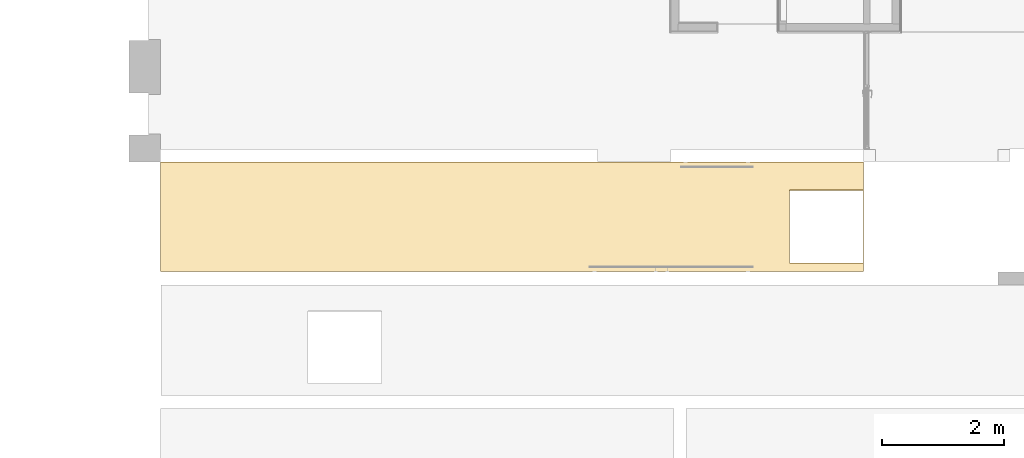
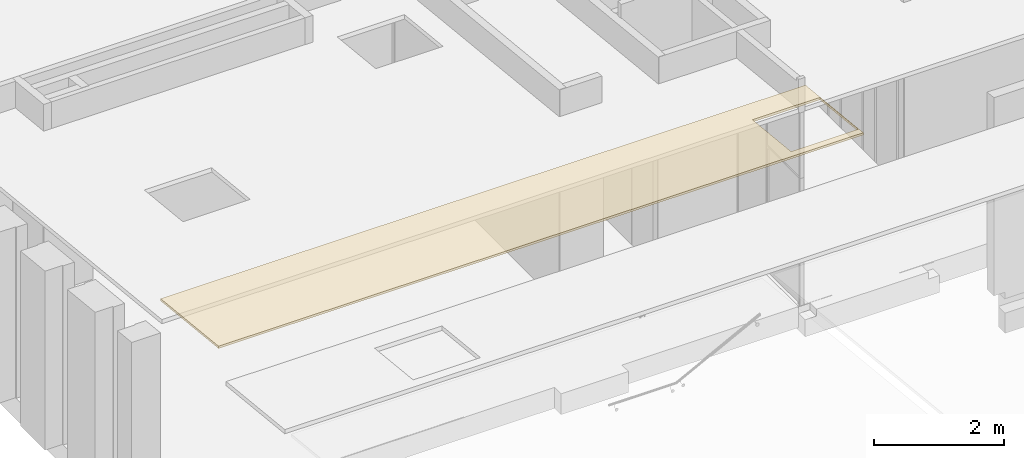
# One storey, part 33 of 43: 1 covering, 22 openings.
"""IFC2X3 building model written with IfcOpenShell, lengths in millimetres."""

from ifc_helpers import new_model, entity, si_unit, converted_unit, derived_unit, money_unit, direction, frame, origin_with_axes, place, context, subcontext, project, spatial, faceted_brep, material, type_object, element, save


model = new_model("IFC2X3")

# Units and contexts
model_context = context("Model", 3, precision=0.01, world=origin_with_axes(), true_north=direction((0.0, 1.0)))
body_context = subcontext(model_context, "Body", "Model", "MODEL_VIEW")
ifc_project = project(units=[si_unit("LENGTHUNIT", "METRE", prefix="MILLI"), si_unit("AREAUNIT", "SQUARE_METRE"), si_unit("VOLUMEUNIT", "CUBIC_METRE"), converted_unit("PLANEANGLEUNIT", "DEGREE", entity("IfcPlaneAngleMeasure", 0.0174532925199), si_unit("PLANEANGLEUNIT", "RADIAN"), dimensions=[0, 0, 0, 0, 0, 0, 0]), si_unit("SOLIDANGLEUNIT", "STERADIAN"), money_unit("EUR"), converted_unit("TIMEUNIT", "Year", entity("IfcTimeMeasure", 31556926.0), si_unit("TIMEUNIT", "SECOND"), dimensions=[0, 0, 1, 0, 0, 0, 0]), si_unit("MASSUNIT", "GRAM", prefix="KILO"), si_unit("THERMODYNAMICTEMPERATUREUNIT", "DEGREE_CELSIUS"), si_unit("LUMINOUSINTENSITYUNIT", "LUMEN"), si_unit("ENERGYUNIT", "JOULE", prefix="MEGA"), derived_unit("THERMALCONDUCTANCEUNIT", [(si_unit("POWERUNIT", "WATT"), 1), (si_unit("LENGTHUNIT", "METRE"), -1), (si_unit("THERMODYNAMICTEMPERATUREUNIT", "KELVIN"), -1)]), derived_unit("SPECIFICHEATCAPACITYUNIT", [(si_unit("ENERGYUNIT", "JOULE"), 1), (si_unit("MASSUNIT", "GRAM", prefix="KILO"), -1), (si_unit("THERMODYNAMICTEMPERATUREUNIT", "KELVIN"), -1)]), derived_unit("MASSDENSITYUNIT", [(si_unit("MASSUNIT", "GRAM", prefix="KILO"), 1), (si_unit("VOLUMEUNIT", "CUBIC_METRE"), -1)])], contexts=[model_context])

# Site, building, storey
site_placement = place(None, origin_with_axes())
site = spatial("IfcSite", under=ifc_project, at=site_placement, Name="L.Koidula tn 11b", CompositionType="ELEMENT")
building_placement = place(site_placement, origin_with_axes())
building = spatial("IfcBuilding", under=site, at=building_placement, Name="Rakvere Riigigümnaasium", CompositionType="ELEMENT")
storey_placement = place(building_placement, frame((0.0, 0.0, 6665.0), z_axis=(0.0, 0.0, 1.0), x_axis=(1.0, 0.0, 0.0)))
storey = spatial("IfcBuildingStorey", under=building, at=storey_placement, Name="3.korrus +6,66", CompositionType="ELEMENT", Elevation=6665.0)

# Covering, openings
ifc_material = material(Name="Krohv akustiline")
covering_type = type_object("IfcCoveringType", Name="Krohv akustiline 42", PredefinedType="CEILING")
covering_placement = place(storey_placement, frame((41692.3728014, 5500.45553477, 5479.297597), z_axis=(0.0, 0.0, 1.0), x_axis=(-0.999999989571, 0.000144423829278, 0.0)))
covering = element("IfcCovering", 1, at=covering_placement, inside=storey, type_object=covering_type, material=ifc_material, Name="L-06", PredefinedType="CEILING", context=body_context, shape_type="Brep", body=[
    faceted_brep([(-5305.95106871, -11600.7663996, -1219.28968129), (-5306.2095843, -9810.78635363, -1031.15519742), (6193.79006367, -9809.12855938, -1030.98095622), (6194.04858298, -11599.1055256, -1219.11511641), (-4096.01797354, -9944.86070176, -1045.24697925), (-5296.01797354, -9944.86070176, -1045.24697925), (-5296.01797354, -11138.2869762, -1170.68113517), (-4096.01797354, -11138.2869762, -1170.68113517), (-5306.21021859, -9810.7863534, -988.923849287), (-5305.95170281, -11600.7663999, -1177.05833322), (6193.78942954, -9809.12855985, -988.749608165), (6194.04794853, -11599.1055259, -1176.88376833), (-4096.01797354, -9949.25089725, -1003.47705928), (-5296.01797354, -9949.25089725, -1003.47705928), (-5296.01797354, -11142.6771717, -1128.9112152), (-4096.01797354, -11142.6771717, -1128.9112152)], [[[0, 1, 2, 3], [4, 5, 6, 7]], [[8, 1, 0, 9]], [[10, 2, 1, 8]], [[11, 3, 2, 10]], [[9, 0, 3, 11]], [[12, 13, 5, 4]], [[13, 14, 6, 5]], [[14, 15, 7, 6]], [[15, 12, 4, 7]], [[11, 10, 8, 9], [12, 15, 14, 13]]]),
])
opening_1_placement = place(covering_placement, frame((-11516.3043858, -9160.02918398, 4595.47213455), z_axis=(0.0, 0.0, 1.0), x_axis=(1.0, 0.0, 0.0)))
element("IfcOpeningElement", 2, at=opening_1_placement, cuts=covering, Name="Ava ripplaes", context=body_context, shape_type="Brep", body=[
    faceted_brep([(600.0, 1201.73628727, -5432.92793176), (-600.0, 1201.73628727, -5432.92793176), (-600.0, 1193.32174598, -5352.86891918), (600.0, 1193.32174598, -5352.86891918), (600.0, 8.31001282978, -5558.36208768), (-600.0, 8.31001282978, -5558.36208768), (-600.0, -0.104528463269, -5478.3030751), (600.0, -0.10452846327, -5478.3030751)], [[[0, 1, 2, 3]], [[0, 4, 5, 1]], [[1, 5, 6, 2]], [[3, 2, 6, 7]], [[4, 0, 3, 7]], [[5, 4, 7, 6]]]),
])
opening_2_placement = place(covering_placement, frame((-23206.3022728, -9161.71749825, 4595.29468557), z_axis=(0.0, 0.0, 1.0), x_axis=(1.0, 0.0, 0.0)))
element("IfcOpeningElement", 3, at=opening_2_placement, cuts=covering, Name="Ava ripplaes", context=body_context, shape_type="Brep", body=[
    faceted_brep([(600.0, 1201.73628727, -5432.92793176), (-600.0, 1201.73628727, -5432.92793176), (-600.0, 1193.32174598, -5352.86891918), (600.0, 1193.32174598, -5352.86891918), (600.0, 8.31001282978, -5558.36208768), (-600.0, 8.31001282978, -5558.36208768), (-600.0, -0.104528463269, -5478.3030751), (600.0, -0.10452846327, -5478.3030751)], [[[0, 1, 2, 3]], [[0, 4, 5, 1]], [[1, 5, 6, 2]], [[3, 2, 6, 7]], [[4, 0, 3, 7]], [[5, 4, 7, 6]]]),
])
opening_3_placement = place(covering_placement, frame((-18086.1915168, -11280.4143095, 4372.61067747), z_axis=(0.0, 0.0, 1.0), x_axis=(1.0, 0.0, 0.0)))
element("IfcOpeningElement", 4, at=opening_3_placement, cuts=covering, Name="Ava ripplaes", context=body_context, shape_type="Brep", body=[
    faceted_brep([(600.0, 1201.73628727, -5432.92793176), (-600.0, 1201.73628727, -5432.92793176), (-600.0, 1193.32174598, -5352.86891918), (600.0, 1193.32174598, -5352.86891918), (600.0, 8.31001282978, -5558.36208768), (-600.0, 8.31001282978, -5558.36208768), (-600.0, -0.104528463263, -5478.3030751), (600.0, -0.104528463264, -5478.3030751)], [[[0, 1, 2, 3]], [[0, 4, 5, 1]], [[1, 5, 6, 2]], [[3, 2, 6, 7]], [[4, 0, 3, 7]], [[5, 4, 7, 6]]]),
])
opening_4_placement = place(covering_placement, frame((-29406.2925626, -11282.1358561, 4372.42973562), z_axis=(0.0, 0.0, 1.0), x_axis=(1.0, 0.0, 0.0)))
element("IfcOpeningElement", 5, at=opening_4_placement, cuts=covering, Name="Ava ripplaes", context=body_context, shape_type="Brep", body=[
    faceted_brep([(600.0, 1201.73628727, -5432.92793176), (-600.0, 1201.73628727, -5432.92793176), (-600.0, 1193.32174598, -5352.86891918), (600.0, 1193.32174598, -5352.86891918), (600.0, 8.31001282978, -5558.36208768), (-600.0, 8.31001282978, -5558.36208768), (-600.0, -0.104528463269, -5478.3030751), (600.0, -0.10452846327, -5478.3030751)], [[[0, 1, 2, 3]], [[0, 4, 5, 1]], [[1, 5, 6, 2]], [[3, 2, 6, 7]], [[4, 0, 3, 7]], [[5, 4, 7, 6]]]),
])
opening_5_placement = place(covering_placement, frame((-29405.7369011, -16322.9984736, 3842.61372513), z_axis=(0.0, 0.0, 1.0), x_axis=(1.0, 0.0, 0.0)))
element("IfcOpeningElement", 6, at=opening_5_placement, cuts=covering, Name="Ava ripplaes", context=body_context, shape_type="Brep", body=[
    faceted_brep([(600.0, 1201.73628727, -5432.92793176), (-600.0, 1201.73628727, -5432.92793176), (-600.0, 1193.32174598, -5352.86891918), (600.0, 1193.32174598, -5352.86891918), (600.0, 8.31001282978, -5558.36208768), (-600.0, 8.31001282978, -5558.36208768), (-600.0, -0.104528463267, -5478.3030751), (600.0, -0.104528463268, -5478.3030751)], [[[0, 1, 2, 3]], [[0, 4, 5, 1]], [[1, 5, 6, 2]], [[3, 2, 6, 7]], [[4, 0, 3, 7]], [[5, 4, 7, 6]]]),
])
opening_6_placement = place(covering_placement, frame((-9716.2340785, -23904.850891, 3045.72892491), z_axis=(0.0, 0.0, 1.0), x_axis=(1.0, 0.0, 0.0)))
element("IfcOpeningElement", 7, at=opening_6_placement, cuts=covering, Name="Ava ripplaes", context=body_context, shape_type="Brep", body=[
    faceted_brep([(600.0, 1201.73628727, -5432.92793176), (-600.0, 1201.73628727, -5432.92793176), (-600.0, 1193.32174598, -5352.86891918), (600.0, 1193.32174598, -5352.86891918), (600.0, 8.31001282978, -5558.36208768), (-600.0, 8.31001282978, -5558.36208768), (-600.0, -0.104528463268, -5478.3030751), (600.0, -0.104528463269, -5478.3030751)], [[[0, 1, 2, 3]], [[0, 4, 5, 1]], [[1, 5, 6, 2]], [[3, 2, 6, 7]], [[4, 0, 3, 7]], [[5, 4, 7, 6]]]),
])
opening_7_placement = place(covering_placement, frame((-9715.54464158, -29871.9832396, 2418.55804267), z_axis=(0.0, 0.0, 1.0), x_axis=(1.0, 0.0, 0.0)))
element("IfcOpeningElement", 8, at=opening_7_placement, cuts=covering, Name="Ava ripplaes", context=body_context, shape_type="Brep", body=[
    faceted_brep([(600.0, 1201.73628727, -5432.92793176), (-600.0, 1201.73628727, -5432.92793176), (-600.0, 1193.32174598, -5352.86891918), (600.0, 1193.32174598, -5352.86891918), (600.0, 8.31001282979, -5558.36208768), (-600.0, 8.31001282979, -5558.36208768), (-600.0, -0.104528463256, -5478.3030751), (600.0, -0.104528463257, -5478.3030751)], [[[0, 1, 2, 3]], [[0, 4, 5, 1]], [[1, 5, 6, 2]], [[3, 2, 6, 7]], [[4, 0, 3, 7]], [[5, 4, 7, 6]]]),
])
opening_8_placement = place(covering_placement, frame((3416.81663542, -31969.3532486, 2198.11557181), z_axis=(0.0, 0.0, 1.0), x_axis=(1.0, 0.0, 0.0)))
element("IfcOpeningElement", 9, at=opening_8_placement, cuts=covering, Name="Ava ripplaes", context=body_context, shape_type="Brep", body=[
    faceted_brep([(600.0, 1201.73628727, -5432.92793176), (-600.0, 1201.73628727, -5432.92793176), (-600.0, 1193.32174598, -5352.86891918), (600.0, 1193.32174598, -5352.86891918), (600.0, 8.31001282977, -5558.36208768), (-600.0, 8.31001282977, -5558.36208768), (-600.0, -0.104528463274, -5478.3030751), (600.0, -0.104528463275, -5478.3030751)], [[[0, 1, 2, 3]], [[0, 4, 5, 1]], [[1, 5, 6, 2]], [[3, 2, 6, 7]], [[4, 0, 3, 7]], [[5, 4, 7, 6]]]),
])
opening_9_placement = place(covering_placement, frame((305.258902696, -28389.6185082, 2574.36085415), z_axis=(0.0, 0.0, 1.0), x_axis=(1.0, 0.0, 0.0)))
element("IfcOpeningElement", 10, at=opening_9_placement, cuts=covering, Name="Ava ripplaes", context=body_context, shape_type="Brep", body=[
    faceted_brep([(600.0, 1201.73628727, -5432.92793176), (-600.0, 1201.73628727, -5432.92793176), (-600.0, 1193.32174598, -5352.86891918), (600.0, 1193.32174598, -5352.86891918), (600.0, 8.31001282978, -5558.36208768), (-600.0, 8.31001282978, -5558.36208768), (-600.0, -0.104528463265, -5478.3030751), (600.0, -0.104528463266, -5478.3030751)], [[[0, 1, 2, 3]], [[0, 4, 5, 1]], [[1, 5, 6, 2]], [[3, 2, 6, 7]], [[4, 0, 3, 7]], [[5, 4, 7, 6]]]),
])
opening_10_placement = place(covering_placement, frame((3415.95483931, -24808.7946504, 2950.72060735), z_axis=(0.0, 0.0, 1.0), x_axis=(1.0, 0.0, 0.0)))
element("IfcOpeningElement", 11, at=opening_10_placement, cuts=covering, Name="Ava ripplaes", context=body_context, shape_type="Brep", body=[
    faceted_brep([(600.0, 1201.73628727, -5432.92793176), (-600.0, 1201.73628727, -5432.92793176), (-600.0, 1193.32174598, -5352.86891918), (600.0, 1193.32174598, -5352.86891918), (600.0, 8.31001282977, -5558.36208768), (-600.0, 8.31001282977, -5558.36208768), (-600.0, -0.104528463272, -5478.3030751), (600.0, -0.104528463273, -5478.3030751)], [[[0, 1, 2, 3]], [[0, 4, 5, 1]], [[1, 5, 6, 2]], [[3, 2, 6, 7]], [[4, 0, 3, 7]], [[5, 4, 7, 6]]]),
])
opening_11_placement = place(covering_placement, frame((3414.40360632, -14067.9564676, 4079.62819067), z_axis=(0.0, 0.0, 1.0), x_axis=(1.0, 0.0, 0.0)))
element("IfcOpeningElement", 12, at=opening_11_placement, cuts=covering, Name="Ava ripplaes", context=body_context, shape_type="Brep", body=[
    faceted_brep([(600.0, 1201.73628727, -5432.92793176), (-600.0, 1201.73628727, -5432.92793176), (-600.0, 1193.32174598, -5352.86891918), (600.0, 1193.32174598, -5352.86891918), (600.0, 8.31001282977, -5558.36208768), (-600.0, 8.31001282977, -5558.36208768), (-600.0, -0.104528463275, -5478.3030751), (600.0, -0.104528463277, -5478.3030751)], [[[0, 1, 2, 3]], [[0, 4, 5, 1]], [[1, 5, 6, 2]], [[3, 2, 6, 7]], [[4, 0, 3, 7]], [[5, 4, 7, 6]]]),
])
opening_12_placement = place(covering_placement, frame((-1060.42443632, -15261.8557052, 3954.14432431), z_axis=(0.0, 0.0, 1.0), x_axis=(1.0, 0.0, 0.0)))
element("IfcOpeningElement", 13, at=opening_12_placement, cuts=covering, Name="Ava ripplaes", context=body_context, shape_type="Brep", body=[
    faceted_brep([(600.0, 1201.73628727, -5432.92793176), (-600.0, 1201.73628727, -5432.92793176), (-600.0, 1193.32174598, -5352.86891918), (600.0, 1193.32174598, -5352.86891918), (600.0, 8.31001282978, -5558.36208768), (-600.0, 8.31001282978, -5558.36208768), (-600.0, -0.104528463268, -5478.3030751), (600.0, -0.104528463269, -5478.3030751)], [[[0, 1, 2, 3]], [[0, 4, 5, 1]], [[1, 5, 6, 2]], [[3, 2, 6, 7]], [[4, 0, 3, 7]], [[5, 4, 7, 6]]]),
])
opening_13_placement = place(covering_placement, frame((3414.92068395, -17648.2356466, 3703.32568552), z_axis=(0.0, 0.0, 1.0), x_axis=(1.0, 0.0, 0.0)))
element("IfcOpeningElement", 14, at=opening_13_placement, cuts=covering, Name="Ava ripplaes", context=body_context, shape_type="Brep", body=[
    faceted_brep([(600.0, 1201.73628727, -5432.92793176), (-600.0, 1201.73628727, -5432.92793176), (-600.0, 1193.32174598, -5352.86891918), (600.0, 1193.32174598, -5352.86891918), (600.0, 8.31001282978, -5558.36208768), (-600.0, 8.31001282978, -5558.36208768), (-600.0, -0.104528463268, -5478.3030751), (600.0, -0.104528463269, -5478.3030751)], [[[0, 1, 2, 3]], [[0, 4, 5, 1]], [[1, 5, 6, 2]], [[3, 2, 6, 7]], [[4, 0, 3, 7]], [[5, 4, 7, 6]]]),
])
opening_14_placement = place(covering_placement, frame((306.293058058, -36743.6037864, 1696.32162007), z_axis=(0.0, 0.0, 1.0), x_axis=(1.0, 0.0, 0.0)))
element("IfcOpeningElement", 15, at=opening_14_placement, cuts=covering, Name="Ava ripplaes", context=body_context, shape_type="Brep", body=[
    faceted_brep([(600.0, 1201.73628727, -5432.92793176), (-600.0, 1201.73628727, -5432.92793176), (-600.0, 1193.32174598, -5352.86891918), (600.0, 1193.32174598, -5352.86891918), (600.0, 8.31001282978, -5558.36208768), (-600.0, 8.31001282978, -5558.36208768), (-600.0, -0.104528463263, -5478.3030751), (600.0, -0.104528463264, -5478.3030751)], [[[0, 1, 2, 3]], [[0, 4, 5, 1]], [[1, 5, 6, 2]], [[3, 2, 6, 7]], [[4, 0, 3, 7]], [[5, 4, 7, 6]]]),
])
opening_15_placement = place(covering_placement, frame((-26304.9309839, -18710.1062928, 3591.7185833), z_axis=(0.0, 0.0, 1.0), x_axis=(1.0, 0.0, 0.0)))
element("IfcOpeningElement", 16, at=opening_15_placement, cuts=covering, Name="Ava ripplaes", context=body_context, shape_type="Brep", body=[
    faceted_brep([(600.0, 1201.73628727, -5432.92793176), (-600.0, 1201.73628727, -5432.92793176), (-600.0, 1193.32174598, -5352.86891918), (600.0, 1193.32174598, -5352.86891918), (600.0, 8.31001282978, -5558.36208768), (-600.0, 8.31001282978, -5558.36208768), (-600.0, -0.104528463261, -5478.3030751), (600.0, -0.104528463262, -5478.3030751)], [[[0, 1, 2, 3]], [[0, 4, 5, 1]], [[1, 5, 6, 2]], [[3, 2, 6, 7]], [[4, 0, 3, 7]], [[5, 4, 7, 6]]]),
])
opening_16_placement = place(covering_placement, frame((-32956.2401126, -13936.6582716, 4093.42818715), z_axis=(0.0, 0.0, 1.0), x_axis=(1.0, 0.0, 0.0)))
element("IfcOpeningElement", 17, at=opening_16_placement, cuts=covering, Name="Ava ripplaes", context=body_context, shape_type="Brep", body=[
    faceted_brep([(600.0, 1201.73628727, -5432.92793176), (-600.0, 1201.73628727, -5432.92793176), (-600.0, 1193.32174598, -5352.86891918), (600.0, 1193.32174598, -5352.86891918), (600.0, 8.31001282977, -5558.36208768), (-600.0, 8.31001282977, -5558.36208768), (-600.0, -0.104528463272, -5478.3030751), (600.0, -0.104528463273, -5478.3030751)], [[[0, 1, 2, 3]], [[0, 4, 5, 1]], [[1, 5, 6, 2]], [[3, 2, 6, 7]], [[4, 0, 3, 7]], [[5, 4, 7, 6]]]),
])
opening_17_placement = place(covering_placement, frame((-26305.6204208, -13936.4004338, 4093.455287), z_axis=(0.0, 0.0, 1.0), x_axis=(1.0, 0.0, 0.0)))
element("IfcOpeningElement", 18, at=opening_17_placement, cuts=covering, Name="Ava ripplaes", context=body_context, shape_type="Brep", body=[
    faceted_brep([(600.0, 1201.73628727, -5432.92793176), (-600.0, 1201.73628727, -5432.92793176), (-600.0, 1193.32174598, -5352.86891918), (600.0, 1193.32174598, -5352.86891918), (600.0, 8.31001282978, -5558.36208768), (-600.0, 8.31001282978, -5558.36208768), (-600.0, -0.104528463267, -5478.3030751), (600.0, -0.104528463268, -5478.3030751)], [[[0, 1, 2, 3]], [[0, 4, 5, 1]], [[1, 5, 6, 2]], [[3, 2, 6, 7]], [[4, 0, 3, 7]], [[5, 4, 7, 6]]]),
])
opening_18_placement = place(covering_placement, frame((-13944.6863496, -20673.7694846, 3385.32926521), z_axis=(0.0, 0.0, 1.0), x_axis=(1.0, 0.0, 0.0)))
element("IfcOpeningElement", 19, at=opening_18_placement, cuts=covering, Name="Ava ripplaes", context=body_context, shape_type="Brep", body=[
    faceted_brep([(-600.0, 1193.32174598, -5352.86891918), (600.0, 1193.32174598, -5352.86891918), (600.0, 1201.73628727, -5432.92793176), (-600.0, 1201.73628727, -5432.92793176), (-600.0, -0.104528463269, -5478.3030751), (600.0, -0.10452846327, -5478.3030751), (600.0, 8.31001282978, -5558.36208768), (-600.0, 8.31001282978, -5558.36208768)], [[[0, 1, 2, 3]], [[0, 4, 5, 1]], [[1, 5, 6, 2]], [[3, 2, 6, 7]], [[4, 0, 3, 7]], [[5, 4, 7, 6]]]),
])
opening_19_placement = place(covering_placement, frame((-1059.56264018, -21228.9882442, 3326.97342207), z_axis=(0.0, 0.0, 1.0), x_axis=(1.0, 0.0, 0.0)))
element("IfcOpeningElement", 20, at=opening_19_placement, cuts=covering, Name="Ava ripplaes", context=body_context, shape_type="Brep", body=[
    faceted_brep([(600.0, 1201.73628727, -5432.92793176), (-600.0, 1201.73628727, -5432.92793176), (-600.0, 1193.32174598, -5352.86891918), (600.0, 1193.32174598, -5352.86891918), (600.0, 8.31001282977, -5558.36208768), (-600.0, 8.31001282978, -5558.36208768), (-600.0, -0.10452846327, -5478.3030751), (600.0, -0.104528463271, -5478.3030751)], [[[0, 1, 2, 3]], [[0, 4, 5, 1]], [[1, 5, 6, 2]], [[3, 2, 6, 7]], [[4, 0, 3, 7]], [[5, 4, 7, 6]]]),
])
opening_20_placement = place(covering_placement, frame((-3012.35451113, -31970.3769044, 2198.00798125), z_axis=(0.0, 0.0, 1.0), x_axis=(1.0, 0.0, 0.0)))
element("IfcOpeningElement", 21, at=opening_20_placement, cuts=covering, Name="Ava ripplaes", context=body_context, shape_type="Brep", body=[
    faceted_brep([(-600.0, 1193.32174598, -5352.86891918), (600.0, 1193.32174598, -5352.86891918), (600.0, 1201.73628727, -5432.92793176), (-600.0, 1201.73628727, -5432.92793176), (-600.0, -0.10452846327, -5478.3030751), (600.0, -0.104528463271, -5478.3030751), (600.0, 8.31001282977, -5558.36208768), (-600.0, 8.31001282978, -5558.36208768)], [[[0, 1, 2, 3]], [[0, 4, 5, 1]], [[1, 5, 6, 2]], [[3, 2, 6, 7]], [[4, 0, 3, 7]], [[5, 4, 7, 6]]]),
])
opening_21_placement = place(covering_placement, frame((-13851.7860327, -27035.9084416, 2716.64151547), z_axis=(0.0, 0.0, 1.0), x_axis=(1.0, 0.0, 0.0)))
element("IfcOpeningElement", 22, at=opening_21_placement, cuts=covering, Name="Ava ripplaes", context=body_context, shape_type="Brep", body=[
    faceted_brep([(600.0, 1201.73628727, -5432.92793176), (-600.0, 1201.73628727, -5432.92793176), (-600.0, 1193.32174598, -5352.86891918), (600.0, 1193.32174598, -5352.86891918), (600.0, 8.31001282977, -5558.36208768), (-600.0, 8.31001282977, -5558.36208768), (-600.0, -0.104528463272, -5478.3030751), (600.0, -0.104528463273, -5478.3030751)], [[[0, 1, 2, 3]], [[0, 4, 5, 1]], [[1, 5, 6, 2]], [[3, 2, 6, 7]], [[4, 0, 3, 7]], [[5, 4, 7, 6]]]),
])
opening_22_placement = place(covering_placement, frame((-4696.01797354, -11142.6771717, 4350.3863818), z_axis=(0.0, 0.0, 1.0), x_axis=(1.0, 0.0, 0.0)))
element("IfcOpeningElement", 23, at=opening_22_placement, cuts=covering, Name="Ava ripplaes", context=body_context, shape_type="Brep", body=[
    faceted_brep([(600.0, 1197.92099836, -5396.62788258), (-600.0, 1197.92099836, -5396.62788258), (-600.0, 1193.32174598, -5352.86891918), (600.0, 1193.32174598, -5352.86891918), (600.0, 4.49472392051, -5522.0620385), (-600.0, 4.49472392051, -5522.0620385), (-600.0, -0.104528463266, -5478.3030751), (600.0, -0.104528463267, -5478.3030751)], [[[0, 1, 2, 3]], [[0, 4, 5, 1]], [[1, 5, 6, 2]], [[3, 2, 6, 7]], [[4, 0, 3, 7]], [[5, 4, 7, 6]]]),
])

save(model, "model.ifc")
